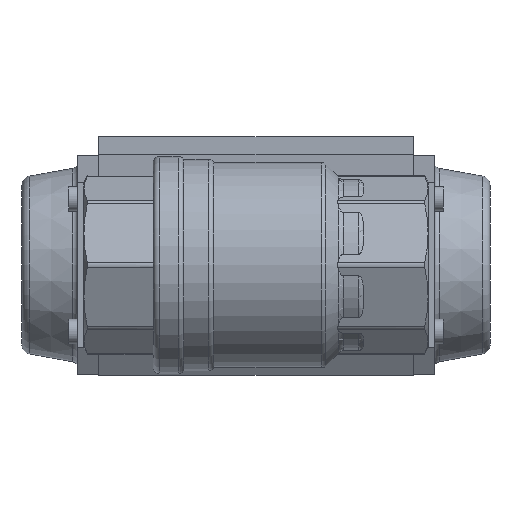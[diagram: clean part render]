
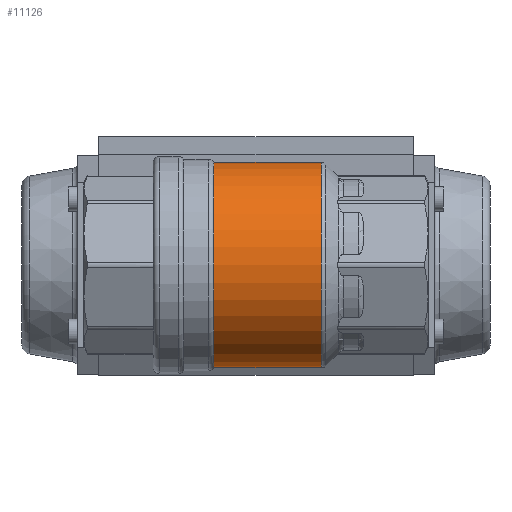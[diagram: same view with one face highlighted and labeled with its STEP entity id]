
A CAD part, front view. The second image highlights one B-rep face of the part: STEP entity #11126.
In plain terms, the highlighted cylindrical face has radius 34 mm (diameter 68 mm), a partial arc.
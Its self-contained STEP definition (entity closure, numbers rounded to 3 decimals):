
#526 = CARTESIAN_POINT ( 'NONE',  ( 21.672, 0., 0. ) ) ;
#527 = DIRECTION ( 'NONE',  ( -1., 0., 0. ) ) ;
#528 = DIRECTION ( 'NONE',  ( 0., 0., -1. ) ) ;
#2671 = ORIENTED_EDGE ( 'NONE', *, *, #6111, .F. ) ;
#2672 = ORIENTED_EDGE ( 'NONE', *, *, #6106, .T. ) ;
#2673 = ORIENTED_EDGE ( 'NONE', *, *, #6112, .T. ) ;
#2674 = ORIENTED_EDGE ( 'NONE', *, *, #6408, .T. ) ;
#2816 = VERTEX_POINT ( 'NONE', #8525 ) ;
#3359 = CIRCLE ( 'NONE', #3366, 34. ) ;
#3366 = AXIS2_PLACEMENT_3D ( 'NONE', #7734, #7735, #7736 ) ;
#3370 = VECTOR ( 'NONE', #7753, 1000. ) ;
#3371 = VECTOR ( 'NONE', #7756, 1000. ) ;
#3791 = AXIS2_PLACEMENT_3D ( 'NONE', #526, #527, #528 ) ;
#3830 = CIRCLE ( 'NONE', #3791, 34. ) ;
#5026 = VERTEX_POINT ( 'NONE', #8536 ) ;
#5158 = VERTEX_POINT ( 'NONE', #8665 ) ;
#5294 = VERTEX_POINT ( 'NONE', #8801 ) ;
#5617 = EDGE_LOOP ( 'NONE', ( #2671, #2672, #2673, #2674 ) ) ;
#6106 = EDGE_CURVE ( 'NONE', #5026, #2816, #3359, .T. ) ;
#6111 = EDGE_CURVE ( 'NONE', #5026, #5294, #7751, .T. ) ;
#6112 = EDGE_CURVE ( 'NONE', #2816, #5158, #7754, .T. ) ;
#6408 = EDGE_CURVE ( 'NONE', #5158, #5294, #3830, .T. ) ;
#7411 = CARTESIAN_POINT ( 'NONE',  ( -14., 0., 0. ) ) ;
#7413 = DIRECTION ( 'NONE',  ( 1., 0., 0. ) ) ;
#7416 = CYLINDRICAL_SURFACE ( 'NONE', #12345, 34. ) ;
#7417 = FACE_OUTER_BOUND ( 'NONE', #5617, .T. ) ;
#7419 = DIRECTION ( 'NONE',  ( 0., 0., -1. ) ) ;
#7734 = CARTESIAN_POINT ( 'NONE',  ( -14., 0., 0. ) ) ;
#7735 = DIRECTION ( 'NONE',  ( 1., 0., 0. ) ) ;
#7736 = DIRECTION ( 'NONE',  ( 0., 0., 1. ) ) ;
#7751 = LINE ( 'NONE', #7752, #3370 ) ;
#7752 = CARTESIAN_POINT ( 'NONE',  ( -14., 0., 34. ) ) ;
#7753 = DIRECTION ( 'NONE',  ( 1., 0., 0. ) ) ;
#7754 = LINE ( 'NONE', #7755, #3371 ) ;
#7755 = CARTESIAN_POINT ( 'NONE',  ( -14., 0., -34. ) ) ;
#7756 = DIRECTION ( 'NONE',  ( 1., 0., 0. ) ) ;
#8525 = CARTESIAN_POINT ( 'NONE',  ( -14., 0., -34. ) ) ;
#8536 = CARTESIAN_POINT ( 'NONE',  ( -14., 0., 34. ) ) ;
#8665 = CARTESIAN_POINT ( 'NONE',  ( 21.672, 0., -34. ) ) ;
#8801 = CARTESIAN_POINT ( 'NONE',  ( 21.672, 0., 34. ) ) ;
#11126 = ADVANCED_FACE ( 'NONE', ( #7417 ), #7416, .T. ) ;
#12345 = AXIS2_PLACEMENT_3D ( 'NONE', #7411, #7413, #7419 ) ;
